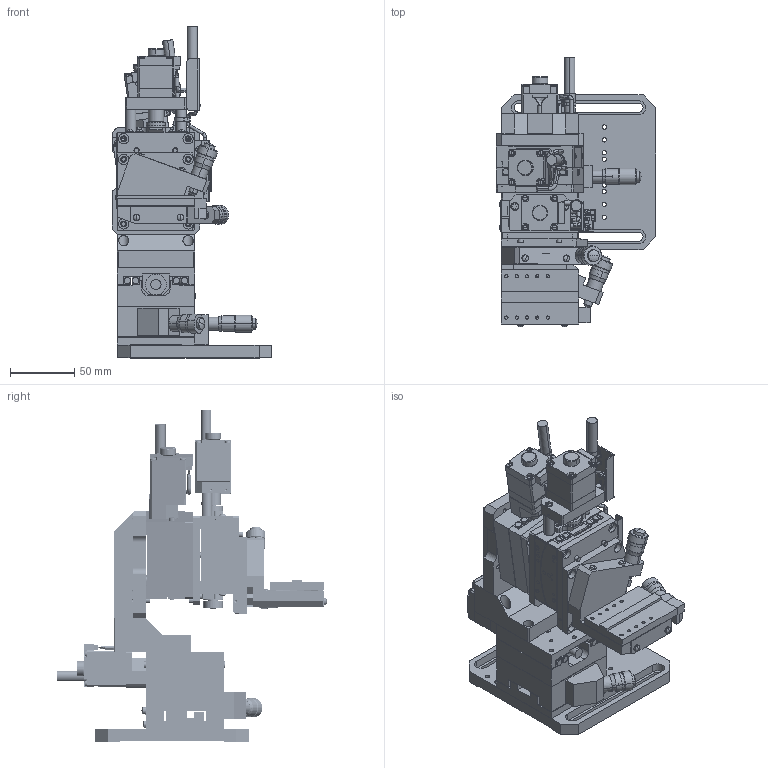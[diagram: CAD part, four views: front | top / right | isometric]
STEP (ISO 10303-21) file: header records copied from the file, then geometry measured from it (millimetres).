
FILE_DESCRIPTION(('STEP AP203'),'1');
FILE_NAME('C:/Users/00652/Desktop/ES3800-8B-R.step','2017-06-02T04:53:30',(' '),(' '),'Spatial InterOp 3D',' ',' ');
FILE_SCHEMA(('CONFIG_CONTROL_DESIGN'));
Length unit declared in the file: millimetre
Products named in the file (29): 1; 2; 3; 4; 5; 6; 7; 8; 9; 10; 11; 12; 13; 14; 15; 16; 17; 18; 19; 20; 21; 22; 23; 24; 25; 26; 27; 28; 29
Bounding box: 123.98 x 209.24 x 257.5 mm (x, y, z)
Volume: 908264.1 mm3; surface area: 323142.5 mm2
Topology: 29 solids, 64 shells, 3580 faces, 9553 edges, 6149 vertices
Faces by surface type: plane 1711, cylinder 1381, cone 298, torus 108, sphere 70, bspline 12
Entity records: 114493 total; most frequent: CARTESIAN_POINT 21158, DIRECTION 20101, ORIENTED_EDGE 18674, EDGE_CURVE 9337, AXIS2_PLACEMENT_3D 7322, VERTEX_POINT 6149, LINE 5457, VECTOR 5457
